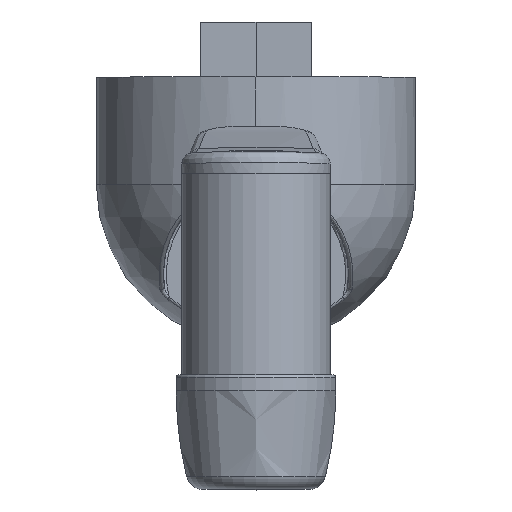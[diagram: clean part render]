
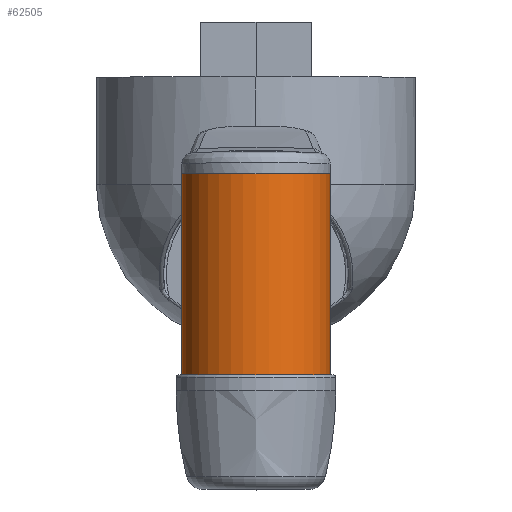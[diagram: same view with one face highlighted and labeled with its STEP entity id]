
A CAD part, top view. The second image highlights one B-rep face of the part: STEP entity #62505.
In plain terms, the highlighted cylindrical face has radius 13.5 mm (diameter 27 mm), a partial arc.
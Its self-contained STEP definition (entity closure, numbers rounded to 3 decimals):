
#894=CARTESIAN_POINT('',(0.,-54.3,146.));
#895=DIRECTION('',(0.,1.,0.));
#896=DIRECTION('',(-1.,0.,0.));
#897=AXIS2_PLACEMENT_3D('',#894,#895,#896);
#899=DIRECTION('',(0.,1.,0.));
#900=VECTOR('',#899,36.5);
#901=CARTESIAN_POINT('',(-13.5,-54.3,146.));
#902=LINE('',#901,#900);
#903=DIRECTION('',(0.,1.,0.));
#904=VECTOR('',#903,36.5);
#905=CARTESIAN_POINT('',(13.5,-54.3,146.));
#906=LINE('',#905,#904);
#932=CARTESIAN_POINT('',(0.,-17.8,146.));
#933=DIRECTION('',(0.,1.,0.));
#934=DIRECTION('',(-1.,0.,0.));
#935=AXIS2_PLACEMENT_3D('',#932,#933,#934);
#56932=CARTESIAN_POINT('',(13.5,-17.8,146.));
#56934=VERTEX_POINT('',#56932);
#56937=CARTESIAN_POINT('',(-13.5,-17.8,146.));
#56939=VERTEX_POINT('',#56937);
#57208=CARTESIAN_POINT('',(13.5,-54.3,146.));
#57209=CARTESIAN_POINT('',(-13.5,-54.3,146.));
#57210=VERTEX_POINT('',#57208);
#57211=VERTEX_POINT('',#57209);
#62493=CARTESIAN_POINT('',(0.,-73.55,146.));
#62494=DIRECTION('',(0.,1.,0.));
#62495=DIRECTION('',(1.,0.,0.));
#62496=AXIS2_PLACEMENT_3D('',#62493,#62494,#62495);
#62497=CYLINDRICAL_SURFACE('',#62496,13.5);
#62498=ORIENTED_EDGE('',*,*,#61212,.F.);
#62499=ORIENTED_EDGE('',*,*,#61195,.T.);
#62501=ORIENTED_EDGE('',*,*,#62500,.T.);
#62502=ORIENTED_EDGE('',*,*,#61173,.F.);
#62503=EDGE_LOOP('',(#62498,#62499,#62501,#62502));
#62504=FACE_OUTER_BOUND('',#62503,.F.);
#898=CIRCLE('',#897,13.5);
#936=CIRCLE('',#935,13.5);
#61173=EDGE_CURVE('',#57210,#56934,#906,.T.);
#61195=EDGE_CURVE('',#57211,#56939,#902,.T.);
#61212=EDGE_CURVE('',#57211,#57210,#898,.T.);
#62500=EDGE_CURVE('',#56939,#56934,#936,.T.);
#62505=ADVANCED_FACE('',(#62504),#62497,.T.);
